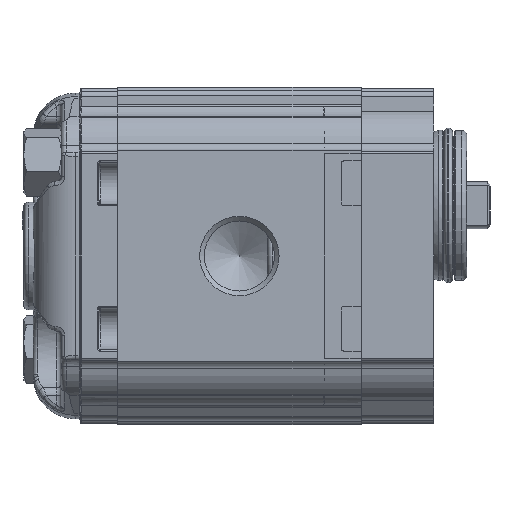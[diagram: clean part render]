
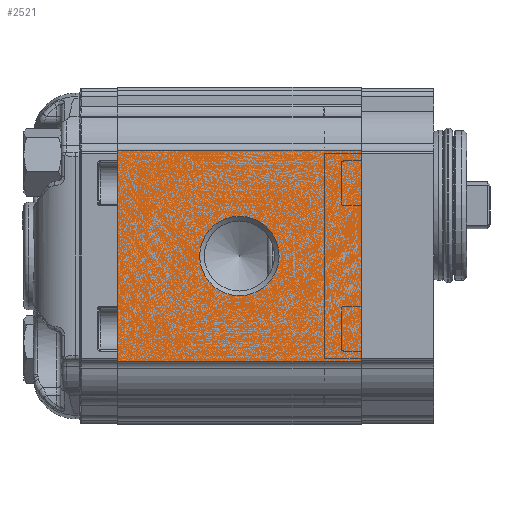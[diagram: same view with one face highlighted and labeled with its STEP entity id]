
A CAD part, left-side view. The second image highlights one B-rep face of the part: STEP entity #2521.
In plain terms, the highlighted planar face has unit normal (-1, 0, 0) as drawn and (1, 0, 0) by its records, which use the part's own axes.
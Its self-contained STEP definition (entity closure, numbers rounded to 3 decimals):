
#2521 = ADVANCED_FACE( '', ( #6556, #6557 ), #6558, .T. );
#6556 = FACE_BOUND( '', #13176, .T. );
#6557 = FACE_OUTER_BOUND( '', #13177, .T. );
#6558 = PLANE( '', #13178 );
#13176 = EDGE_LOOP( '', ( #23543 ) );
#13177 = EDGE_LOOP( '', ( #23544, #23545, #23546, #23547 ) );
#13178 = AXIS2_PLACEMENT_3D( '', #23548, #23549, #23550 );
#23543 = ORIENTED_EDGE( '', *, *, #38710, .T. );
#23544 = ORIENTED_EDGE( '', *, *, #38711, .T. );
#23545 = ORIENTED_EDGE( '', *, *, #38712, .T. );
#23546 = ORIENTED_EDGE( '', *, *, #38713, .T. );
#23547 = ORIENTED_EDGE( '', *, *, #38714, .F. );
#23548 = CARTESIAN_POINT( '', ( 33., 128.714, -45.494 ) );
#23549 = DIRECTION( '', ( 1., 0., 0. ) );
#23550 = DIRECTION( '', ( 0., 0., -1. ) );
#38710 = EDGE_CURVE( '', #46290, #46290, #46291, .F. );
#38711 = EDGE_CURVE( '', #46292, #46293, #46294, .T. );
#38712 = EDGE_CURVE( '', #46293, #46295, #46296, .T. );
#38713 = EDGE_CURVE( '', #46295, #46297, #46298, .F. );
#38714 = EDGE_CURVE( '', #46292, #46297, #46299, .T. );
#46290 = VERTEX_POINT( '', #58276 );
#46291 = CIRCLE( '', #58277, 8.475 );
#46292 = VERTEX_POINT( '', #58278 );
#46293 = VERTEX_POINT( '', #58279 );
#46294 = LINE( '', #58280, #58281 );
#46295 = VERTEX_POINT( '', #58282 );
#46296 = LINE( '', #58283, #58284 );
#46297 = VERTEX_POINT( '', #58285 );
#46298 = LINE( '', #58286, #58287 );
#46299 = LINE( '', #58288, #58289 );
#58276 = CARTESIAN_POINT( '', ( 33., 26., -8.475 ) );
#58277 = AXIS2_PLACEMENT_3D( '', #73339, #73340, #73341 );
#58278 = CARTESIAN_POINT( '', ( 33., 52., 22.5 ) );
#58279 = CARTESIAN_POINT( '', ( 33., 0., 22.5 ) );
#58280 = CARTESIAN_POINT( '', ( 33., 52., 22.5 ) );
#58281 = VECTOR( '', #73342, 1000. );
#58282 = CARTESIAN_POINT( '', ( 33., 0., -22.5 ) );
#58283 = CARTESIAN_POINT( '', ( 33., 0., -21.711 ) );
#58284 = VECTOR( '', #73343, 1000. );
#58285 = CARTESIAN_POINT( '', ( 33., 52., -22.5 ) );
#58286 = CARTESIAN_POINT( '', ( 33., 52., -22.5 ) );
#58287 = VECTOR( '', #73344, 1000. );
#58288 = CARTESIAN_POINT( '', ( 33., 52., -21.711 ) );
#58289 = VECTOR( '', #73345, 1000. );
#73339 = CARTESIAN_POINT( '', ( 33., 26., 0. ) );
#73340 = DIRECTION( '', ( 1., 0., 0. ) );
#73341 = DIRECTION( '', ( 0., 0., -1. ) );
#73342 = DIRECTION( '', ( 0., -1., 0. ) );
#73343 = DIRECTION( '', ( 0., 0., -1. ) );
#73344 = DIRECTION( '', ( 0., -1., 0. ) );
#73345 = DIRECTION( '', ( 0., 0., -1. ) );
